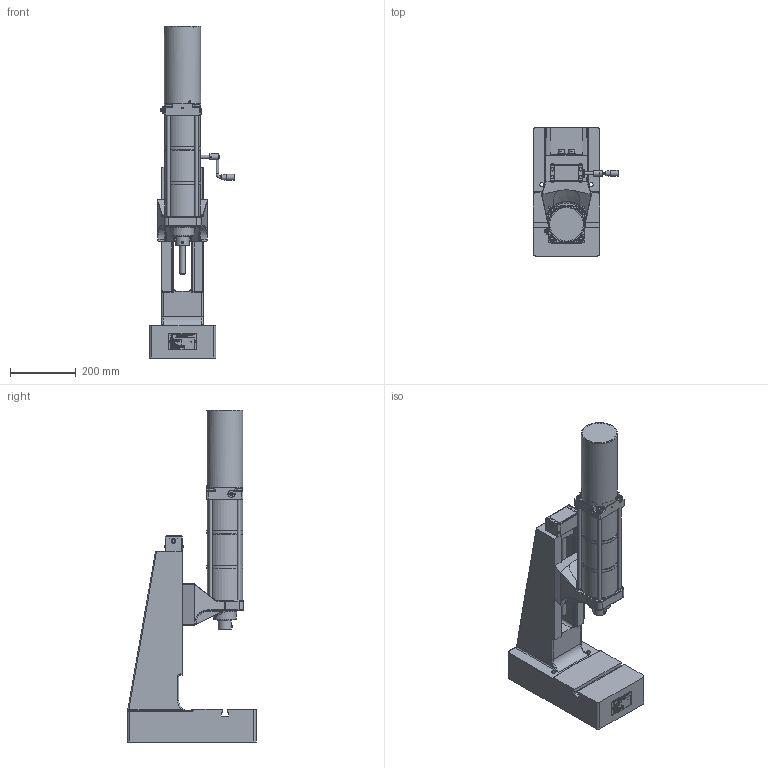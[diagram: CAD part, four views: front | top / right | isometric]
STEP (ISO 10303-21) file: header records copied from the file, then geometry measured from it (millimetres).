
FILE_DESCRIPTION(/* description */ ('Bausatz Ständer T4N HV-OST'),/* implementation_level */ '2;1');
FILE_NAME(/* name */ 'B:\02_CAD_oeffentlich\CAD_3D_oeffentlich_step\Druckluftpresse\DRP_1300_060_130.stp',/* time_stamp */ '2017-08-23T07:12:02+02:00',/* author */ ('Finsterle'),/* organization */ (''),/* preprocessor_version */ 'ST-DEVELOPER v16.1',/* originating_system */ 'Autodesk Inventor 2016',/* authorisation */ '');
FILE_SCHEMA (('AUTOMOTIVE_DESIGN { 1 0 10303 214 3 1 1 }'));
Products named in the file (5): ENG-000753-1_V; ENG-001080_V; HBF-000760; ENG-000755; HBF-001056_V
Assembly tree (5 placements, depth 2):
  HBF-001056_V
    ENG-000753-1_V
    ENG-001080_V
    HBF-000760
    ENG-000755  x2
Bounding box: 259.79 x 393.8 x 1010.48 mm (x, y, z)
Volume: 11916247.1 mm3; surface area: 1602982.8 mm2
Topology: 6 solids, 16 shells, 7600 faces, 20588 edges, 13454 vertices
Faces by surface type: plane 4595, bspline 2104, cylinder 479, cone 237, torus 110, sphere 75
Full cylindrical faces by diameter (mm): 1 x1, 2 x1, 2.4 x3, 2.459 x2, 3 x7, 3.242 x7, 3.5 x2, 3.65 x4, 4 x6, 4.134 x1, 4.5 x4, 4.917 x6, 5 x3, 6.2 x4, 6.5 x2, 6.647 x1, 8 x7, 8.4 x1, 8.5 x1, 10 x7, 10.02 x1, 10.106 x2, 10.5 x12, 11.8 x2, 12 x7, 13 x8, 13.5 x4, 14 x3, 14.376 x2, 14.95 x3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
Entity records: 258030 total; most frequent: CARTESIAN_POINT 75855, ORIENTED_EDGE 39972, DIRECTION 27966, EDGE_CURVE 19973, LINE 13954, VECTOR 13954, VERTEX_POINT 13323, EDGE_LOOP 8582
